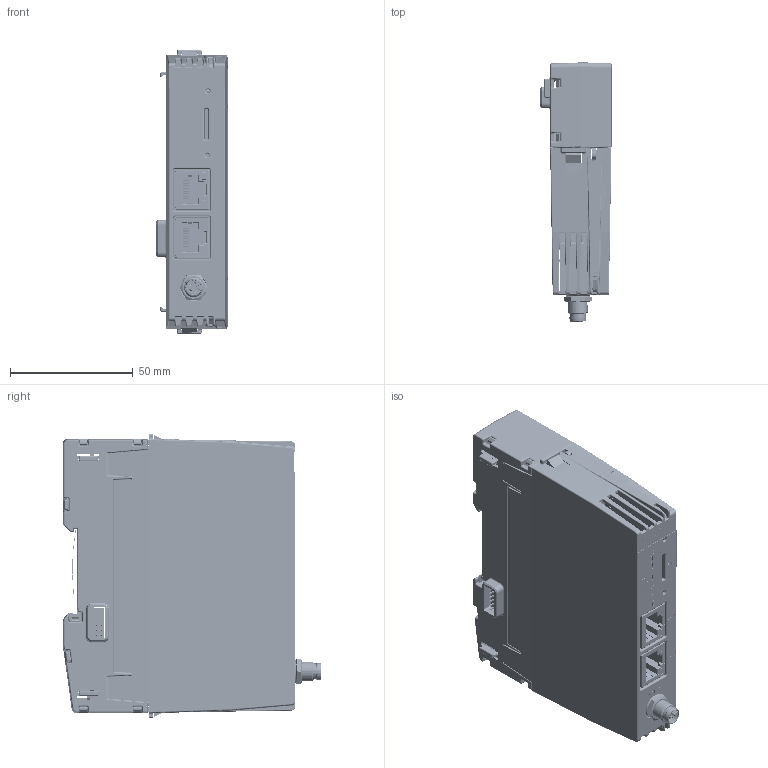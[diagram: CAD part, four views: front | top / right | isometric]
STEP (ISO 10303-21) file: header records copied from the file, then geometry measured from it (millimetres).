
FILE_DESCRIPTION(/* description */ (''),/* implementation_level */ '2;1');
FILE_NAME(/* name */ 'C:\Users\Public\Documents\Autodesk\Inventor 2023\MP32A_REVB_Simplified+BB61C.stp',/* time_stamp */ '2024-10-19T23:51:27+02:00',/* author */ ('shoma'),/* organization */ (''),/* preprocessor_version */ 'ST-DEVELOPER v19',/* originating_system */ 'Autodesk Inventor 2023',/* authorisation */ '');
FILE_SCHEMA (('AUTOMOTIVE_DESIGN { 1 0 10303 214 3 1 1 }'));
Products named in the file (1): MP32A_REVB_Simplified+BB61C
Bounding box: 28.9 x 105.31 x 115.5 mm (x, y, z)
Volume: 113707.6 mm3; surface area: 86850.8 mm2
Topology: 10 solids, 13 shells, 7161 faces, 19468 edges, 12250 vertices
Faces by surface type: plane 4357, cylinder 1845, bspline 659, sphere 188, torus 70, cone 42
Full cylindrical faces by diameter (mm): 0.3 x39, 0.5 x2, 0.7 x36, 0.75 x2, 0.8 x17, 0.85 x24, 0.9 x28, 1 x8, 1.02 x8, 1.1 x1, 1.3 x4, 1.4 x4, 1.6 x3, 1.7 x4, 2.35 x2, 2.5 x1, 3 x3, 3.2 x4, 3.25 x2, 5.8 x1, 6.5 x1, 6.9 x1, 6.917 x1, 7.896 x1, 8.416 x2, 9 x1, 10.69 x1
Entity records: 251779 total; most frequent: CARTESIAN_POINT 65252, ORIENTED_EDGE 38566, DIRECTION 35585, EDGE_CURVE 19283, LINE 13897, VECTOR 13897, VERTEX_POINT 12250, AXIS2_PLACEMENT_3D 10844
